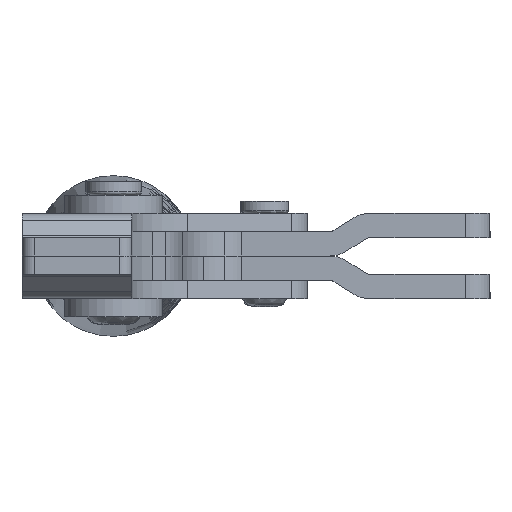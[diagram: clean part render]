
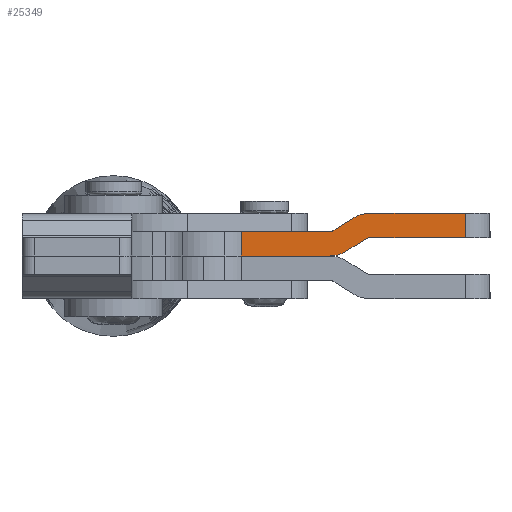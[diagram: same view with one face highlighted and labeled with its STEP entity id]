
A CAD part, left-side view. The second image highlights one B-rep face of the part: STEP entity #25349.
In plain terms, the highlighted planar face has unit normal (-1, 0, 0).
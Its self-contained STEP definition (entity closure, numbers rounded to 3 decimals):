
#472 = DIRECTION ( 'NONE',  ( 0., -1., 0. ) ) ;
#849 = AXIS2_PLACEMENT_3D ( 'NONE', #26077, #962, #9387 ) ;
#962 = DIRECTION ( 'NONE',  ( 1., 0., 0. ) ) ;
#1382 = VERTEX_POINT ( 'NONE', #16510 ) ;
#1686 = EDGE_CURVE ( 'NONE', #21125, #22134, #7637, .T. ) ;
#1948 = EDGE_CURVE ( 'NONE', #19171, #18220, #18223, .T. ) ;
#2374 = ORIENTED_EDGE ( 'NONE', *, *, #30123, .T. ) ;
#3058 = CARTESIAN_POINT ( 'NONE',  ( -21., -14.66, 2.256 ) ) ;
#3701 = DIRECTION ( 'NONE',  ( -1., 0., 0. ) ) ;
#3899 = LINE ( 'NONE', #20590, #16738 ) ;
#4355 = CIRCLE ( 'NONE', #849, 1. ) ;
#4689 = AXIS2_PLACEMENT_3D ( 'NONE', #28837, #3701, #14873 ) ;
#5315 = ORIENTED_EDGE ( 'NONE', *, *, #18564, .T. ) ;
#5401 = EDGE_CURVE ( 'NONE', #29503, #14175, #8143, .T. ) ;
#5561 = DIRECTION ( 'NONE',  ( 0., 0., -1. ) ) ;
#5937 = ORIENTED_EDGE ( 'NONE', *, *, #8494, .T. ) ;
#6338 = CARTESIAN_POINT ( 'NONE',  ( -21., -11., -4. ) ) ;
#6636 = EDGE_CURVE ( 'NONE', #32501, #19171, #10581, .T. ) ;
#7637 = LINE ( 'NONE', #27249, #29355 ) ;
#7858 = PLANE ( 'NONE',  #26254 ) ;
#8143 = CIRCLE ( 'NONE', #13430, 5. ) ;
#8282 = EDGE_CURVE ( 'NONE', #1382, #21990, #25762, .T. ) ;
#8494 = EDGE_CURVE ( 'NONE', #22134, #35496, #8670, .T. ) ;
#8670 = LINE ( 'NONE', #11414, #33470 ) ;
#9387 = DIRECTION ( 'NONE',  ( 0., 1., 0. ) ) ;
#9442 = DIRECTION ( 'NONE',  ( 0., 1., 0. ) ) ;
#9443 = DIRECTION ( 'NONE',  ( 0., 0., 1. ) ) ;
#9479 = CIRCLE ( 'NONE', #4689, 5. ) ;
#9623 = LINE ( 'NONE', #31285, #26341 ) ;
#9850 = ORIENTED_EDGE ( 'NONE', *, *, #34031, .T. ) ;
#9909 = CARTESIAN_POINT ( 'NONE',  ( -21., -17.283, -2. ) ) ;
#10581 = LINE ( 'NONE', #18639, #27494 ) ;
#10684 = VECTOR ( 'NONE', #22946, 1000. ) ;
#10755 = EDGE_CURVE ( 'NONE', #16778, #32501, #9479, .T. ) ;
#11414 = CARTESIAN_POINT ( 'NONE',  ( -21., 3.791, -4. ) ) ;
#11788 = CARTESIAN_POINT ( 'NONE',  ( -21., -33., 3. ) ) ;
#12023 = DIRECTION ( 'NONE',  ( 0., 1., 0. ) ) ;
#12179 = CARTESIAN_POINT ( 'NONE',  ( -21., -13.34, -3.256 ) ) ;
#12256 = VECTOR ( 'NONE', #27447, 1000. ) ;
#12554 = DIRECTION ( 'NONE',  ( 1., 0., 0. ) ) ;
#12954 = CARTESIAN_POINT ( 'NONE',  ( -21., -11., -1. ) ) ;
#13430 = AXIS2_PLACEMENT_3D ( 'NONE', #9909, #32311, #35034 ) ;
#14175 = VERTEX_POINT ( 'NONE', #18133 ) ;
#14873 = DIRECTION ( 'NONE',  ( 0., -1., 0. ) ) ;
#14934 = CARTESIAN_POINT ( 'NONE',  ( -21., -33., -4. ) ) ;
#16510 = CARTESIAN_POINT ( 'NONE',  ( -21., -33., -1. ) ) ;
#16607 = VERTEX_POINT ( 'NONE', #32663 ) ;
#16738 = VECTOR ( 'NONE', #31802, 1000. ) ;
#16778 = VERTEX_POINT ( 'NONE', #17594 ) ;
#17594 = CARTESIAN_POINT ( 'NONE',  ( -21., -10.717, -4. ) ) ;
#18133 = CARTESIAN_POINT ( 'NONE',  ( -21., -14.66, 2.256 ) ) ;
#18220 = VERTEX_POINT ( 'NONE', #34035 ) ;
#18223 = CIRCLE ( 'NONE', #20605, 1. ) ;
#18564 = EDGE_CURVE ( 'NONE', #14175, #16607, #25238, .T. ) ;
#18639 = CARTESIAN_POINT ( 'NONE',  ( -21., -13.34, -3.256 ) ) ;
#19171 = VERTEX_POINT ( 'NONE', #35260 ) ;
#19203 = DIRECTION ( 'NONE',  ( -1., 0., 0. ) ) ;
#19294 = CARTESIAN_POINT ( 'NONE',  ( -21., -10.717, 0. ) ) ;
#20590 = CARTESIAN_POINT ( 'NONE',  ( -21., 24.76, -4. ) ) ;
#20605 = AXIS2_PLACEMENT_3D ( 'NONE', #29091, #12554, #34930 ) ;
#21125 = VERTEX_POINT ( 'NONE', #19294 ) ;
#21472 = CARTESIAN_POINT ( 'NONE',  ( -21., 3.791, 0. ) ) ;
#21990 = VERTEX_POINT ( 'NONE', #11788 ) ;
#22073 = EDGE_CURVE ( 'NONE', #16778, #35496, #3899, .T. ) ;
#22134 = VERTEX_POINT ( 'NONE', #21472 ) ;
#22946 = DIRECTION ( 'NONE',  ( 0., -1., 0. ) ) ;
#23058 = CARTESIAN_POINT ( 'NONE',  ( -21., 3.791, -4. ) ) ;
#23477 = EDGE_LOOP ( 'NONE', ( #30379, #25398, #2374, #36108, #27478, #28908, #5315, #9850, #30529, #5937, #35671, #23570 ) ) ;
#23570 = ORIENTED_EDGE ( 'NONE', *, *, #10755, .T. ) ;
#24681 = CARTESIAN_POINT ( 'NONE',  ( -21., -17.283, 3. ) ) ;
#25238 = LINE ( 'NONE', #3058, #12256 ) ;
#25349 = ADVANCED_FACE ( 'NONE', ( #35913 ), #7858, .T. ) ;
#25398 = ORIENTED_EDGE ( 'NONE', *, *, #1948, .T. ) ;
#25762 = LINE ( 'NONE', #14934, #35201 ) ;
#26077 = CARTESIAN_POINT ( 'NONE',  ( -21., -10.717, 1. ) ) ;
#26254 = AXIS2_PLACEMENT_3D ( 'NONE', #6338, #19203, #472 ) ;
#26341 = VECTOR ( 'NONE', #9442, 1000. ) ;
#27249 = CARTESIAN_POINT ( 'NONE',  ( -21., -11., 0. ) ) ;
#27447 = DIRECTION ( 'NONE',  ( 0., 0.851, -0.525 ) ) ;
#27478 = ORIENTED_EDGE ( 'NONE', *, *, #32480, .T. ) ;
#27494 = VECTOR ( 'NONE', #35703, 1000. ) ;
#28837 = CARTESIAN_POINT ( 'NONE',  ( -21., -10.717, 1. ) ) ;
#28908 = ORIENTED_EDGE ( 'NONE', *, *, #5401, .T. ) ;
#29091 = CARTESIAN_POINT ( 'NONE',  ( -21., -17.283, -2. ) ) ;
#29355 = VECTOR ( 'NONE', #12023, 1000. ) ;
#29503 = VERTEX_POINT ( 'NONE', #24681 ) ;
#30123 = EDGE_CURVE ( 'NONE', #18220, #1382, #31949, .T. ) ;
#30379 = ORIENTED_EDGE ( 'NONE', *, *, #6636, .T. ) ;
#30529 = ORIENTED_EDGE ( 'NONE', *, *, #1686, .T. ) ;
#31285 = CARTESIAN_POINT ( 'NONE',  ( -21., -11., 3. ) ) ;
#31802 = DIRECTION ( 'NONE',  ( 0., 1., 0. ) ) ;
#31949 = LINE ( 'NONE', #12954, #10684 ) ;
#32311 = DIRECTION ( 'NONE',  ( -1., 0., 0. ) ) ;
#32480 = EDGE_CURVE ( 'NONE', #21990, #29503, #9623, .T. ) ;
#32501 = VERTEX_POINT ( 'NONE', #12179 ) ;
#32663 = CARTESIAN_POINT ( 'NONE',  ( -21., -11.241, 0.149 ) ) ;
#33470 = VECTOR ( 'NONE', #5561, 1000. ) ;
#34031 = EDGE_CURVE ( 'NONE', #16607, #21125, #4355, .T. ) ;
#34035 = CARTESIAN_POINT ( 'NONE',  ( -21., -17.283, -1. ) ) ;
#34930 = DIRECTION ( 'NONE',  ( 0., 1., 0. ) ) ;
#35034 = DIRECTION ( 'NONE',  ( 0., -1., 0. ) ) ;
#35201 = VECTOR ( 'NONE', #9443, 1000. ) ;
#35260 = CARTESIAN_POINT ( 'NONE',  ( -21., -16.759, -1.149 ) ) ;
#35496 = VERTEX_POINT ( 'NONE', #23058 ) ;
#35671 = ORIENTED_EDGE ( 'NONE', *, *, #22073, .F. ) ;
#35703 = DIRECTION ( 'NONE',  ( 0., -0.851, 0.525 ) ) ;
#35913 = FACE_OUTER_BOUND ( 'NONE', #23477, .T. ) ;
#36108 = ORIENTED_EDGE ( 'NONE', *, *, #8282, .T. ) ;
